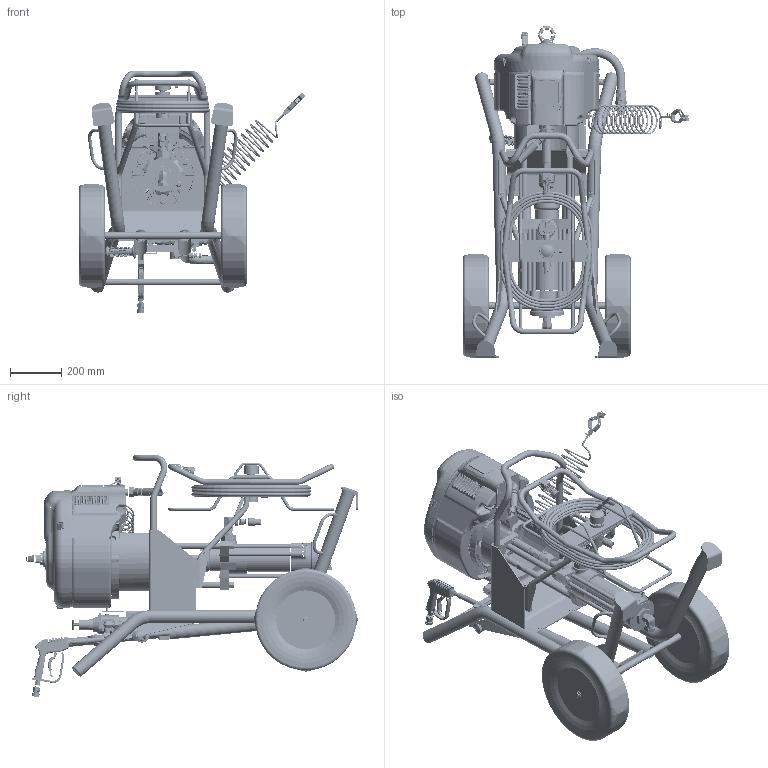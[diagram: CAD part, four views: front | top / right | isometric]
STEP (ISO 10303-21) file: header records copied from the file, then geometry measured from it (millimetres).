
FILE_DESCRIPTION((''),'2;1');
FILE_NAME('24W473-EN-H_PRT','2022-02-14T12:13:22',('qtmwp1'),(''),'CREO PARAMETRIC BY PTC INC, 2021072','CREO PARAMETRIC BY PTC INC, 2021072','');
FILE_SCHEMA(('CONFIG_CONTROL_DESIGN'));
Products named in the file (1): 24W473-EN-H_PRT
Bounding box: 881.08 x 1291.58 x 944.88 mm (x, y, z)
Surface area: 7862593 mm2 (no closed solid volume)
Topology: 0 solids, 814 shells, 6340 faces, 27141 edges, 20705 vertices
Faces by surface type: plane 2236, cylinder 1664, torus 1022, cone 742, bspline 625, sphere 39, extrusion 12
Entity records: 350870 total; most frequent: CARTESIAN_POINT 155950, ORIENTED_EDGE 37725, DIRECTION 35385, EDGE_CURVE 27125, VERTEX_POINT 20705, AXIS2_PLACEMENT_3D 13626, B_SPLINE_CURVE_WITH_KNOTS 11093, VECTOR 8133
